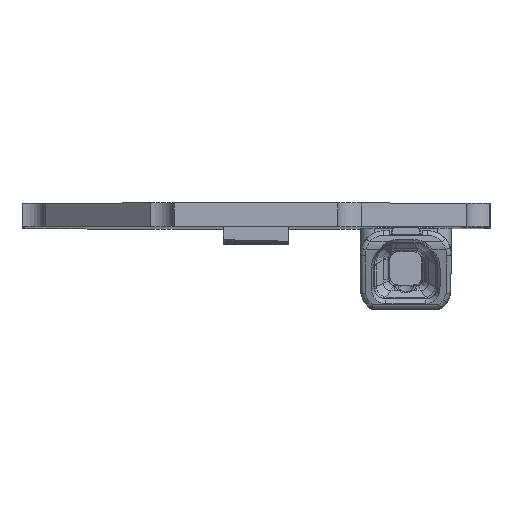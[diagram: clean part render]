
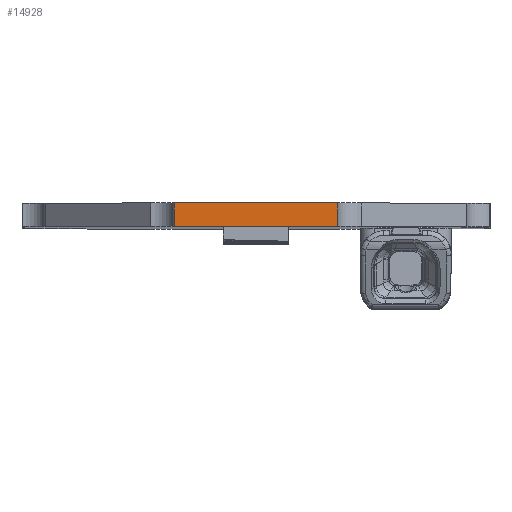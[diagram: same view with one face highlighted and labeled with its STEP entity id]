
A CAD part, top view. The second image highlights one B-rep face of the part: STEP entity #14928.
In plain terms, the highlighted planar face has unit normal (0, 0, 1).
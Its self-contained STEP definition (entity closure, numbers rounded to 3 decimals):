
#1132=ORIENTED_EDGE('',*,*,#4259,.F.);
#1133=ORIENTED_EDGE('',*,*,#4333,.F.);
#1134=ORIENTED_EDGE('',*,*,#4301,.T.);
#1135=ORIENTED_EDGE('',*,*,#4332,.T.);
#4259=EDGE_CURVE('',#5877,#5878,#6884,.T.);
#4301=EDGE_CURVE('',#5920,#5919,#6911,.T.);
#4332=EDGE_CURVE('',#5919,#5878,#6934,.T.);
#4333=EDGE_CURVE('',#5920,#5877,#6935,.T.);
#5877=VERTEX_POINT('',#19037);
#5878=VERTEX_POINT('',#19039);
#5919=VERTEX_POINT('',#19122);
#5920=VERTEX_POINT('',#19124);
#6884=LINE('',#19038,#7866);
#6911=LINE('',#19123,#7893);
#6934=LINE('',#19184,#7916);
#6935=LINE('',#19186,#7917);
#7866=VECTOR('',#16425,1000.);
#7893=VECTOR('',#16484,1000.);
#7916=VECTOR('',#16547,1000.);
#7917=VECTOR('',#16550,1000.);
#8820=EDGE_LOOP('',(#1132,#1133,#1134,#1135));
#9492=FACE_BOUND('',#8820,.T.);
#10147=PLANE('',#15603);
#14928=ADVANCED_FACE('',(#9492),#10147,.T.);
#15603=AXIS2_PLACEMENT_3D('',#19185,#16548,#16549);
#16425=DIRECTION('',(-1.,0.,0.));
#16484=DIRECTION('',(-1.,0.,0.));
#16547=DIRECTION('',(0.,-1.,0.));
#16548=DIRECTION('',(0.,0.,1.));
#16549=DIRECTION('',(1.,0.,0.));
#16550=DIRECTION('',(0.,-1.,0.));
#19037=CARTESIAN_POINT('',(3.5,0.,34.8));
#19038=CARTESIAN_POINT('',(3.5,0.,34.8));
#19039=CARTESIAN_POINT('',(-3.5,0.,34.8));
#19122=CARTESIAN_POINT('',(-3.5,1.,34.8));
#19123=CARTESIAN_POINT('',(3.5,1.,34.8));
#19124=CARTESIAN_POINT('',(3.5,1.,34.8));
#19184=CARTESIAN_POINT('',(-3.5,1.,34.8));
#19185=CARTESIAN_POINT('',(3.5,1.,34.8));
#19186=CARTESIAN_POINT('',(3.5,1.,34.8));
